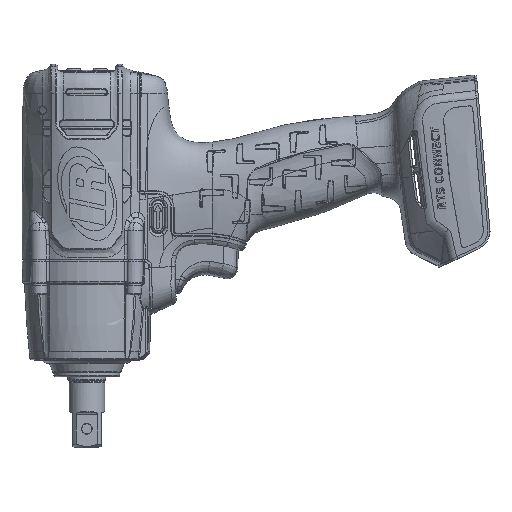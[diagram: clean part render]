
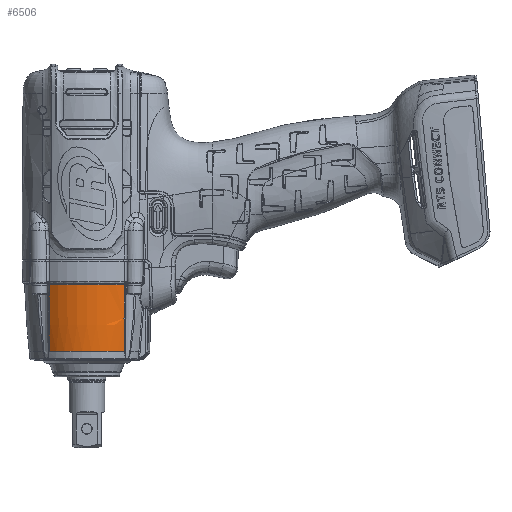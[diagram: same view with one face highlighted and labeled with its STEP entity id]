
A CAD part, left-side view. The second image highlights one B-rep face of the part: STEP entity #6506.
In plain terms, the highlighted face is a revolution surface.
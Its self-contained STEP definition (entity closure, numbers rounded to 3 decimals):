
#199=SURFACE_OF_REVOLUTION('',#216,#206);
#206=AXIS1_PLACEMENT('',#171136,#95292);
#216=(
BOUNDED_CURVE()
B_SPLINE_CURVE(2,(#171133,#171134,#171135),.UNSPECIFIED.,.F.,.F.)
B_SPLINE_CURVE_WITH_KNOTS((3,3),(0.,1.),.UNSPECIFIED.)
CURVE()
GEOMETRIC_REPRESENTATION_ITEM()
RATIONAL_B_SPLINE_CURVE((1.,1.,1.))
REPRESENTATION_ITEM('')
);
#6506=ADVANCED_FACE('',(#12868),#199,.T.);
#12868=FACE_OUTER_BOUND('',#18086,.T.);
#18086=EDGE_LOOP('',(#42344,#42345,#42346,#42347,#42348,#42349));
#24422=B_SPLINE_CURVE_WITH_KNOTS('',3,(#169660,#169661,#169662,#169663),
 .UNSPECIFIED.,.F.,.F.,(4,4),(0.,1.),.UNSPECIFIED.);
#24426=B_SPLINE_CURVE_WITH_KNOTS('',3,(#169732,#169733,#169734,#169735),
 .UNSPECIFIED.,.F.,.F.,(4,4),(0.,1.),.UNSPECIFIED.);
#24495=B_SPLINE_CURVE_WITH_KNOTS('',3,(#171091,#171092,#171093,#171094,#171095,
#171096,#171097,#171098),.UNSPECIFIED.,.F.,.F.,(4,2,2,4),(0.,0.5,0.75,1.),
 .UNSPECIFIED.);
#24496=B_SPLINE_CURVE_WITH_KNOTS('',3,(#171123,#171124,#171125,#171126,#171127,
#171128,#171129,#171130),.UNSPECIFIED.,.F.,.F.,(4,2,2,4),(0.,0.25,0.5,1.),
 .UNSPECIFIED.);
#42344=ORIENTED_EDGE('',*,*,#75792,.T.);
#42345=ORIENTED_EDGE('',*,*,#75675,.T.);
#42346=ORIENTED_EDGE('',*,*,#75668,.T.);
#42347=ORIENTED_EDGE('',*,*,#75667,.T.);
#42348=ORIENTED_EDGE('',*,*,#75791,.T.);
#42349=ORIENTED_EDGE('',*,*,#75793,.F.);
#66224=VERTEX_POINT('',#169562);
#66229=VERTEX_POINT('',#169659);
#66230=VERTEX_POINT('',#169677);
#66236=VERTEX_POINT('',#169736);
#66307=VERTEX_POINT('',#171090);
#66308=VERTEX_POINT('',#171131);
#75667=EDGE_CURVE('',#66224,#66229,#24422,.T.);
#75668=EDGE_CURVE('',#66230,#66224,#86779,.T.);
#75675=EDGE_CURVE('',#66236,#66230,#24426,.T.);
#75791=EDGE_CURVE('',#66229,#66307,#24495,.T.);
#75792=EDGE_CURVE('',#66308,#66236,#24496,.T.);
#75793=EDGE_CURVE('',#66308,#66307,#86830,.T.);
#86779=CIRCLE('',#89232,27.956);
#86830=CIRCLE('',#89296,25.935);
#89232=AXIS2_PLACEMENT_3D('',#169676,#95160,#95161);
#89296=AXIS2_PLACEMENT_3D('',#171132,#95290,#95291);
#95160=DIRECTION('',(0.,0.,-1.));
#95161=DIRECTION('',(0.,1.,0.));
#95290=DIRECTION('',(0.,0.,-1.));
#95291=DIRECTION('',(0.,1.,0.));
#95292=DIRECTION('',(0.,0.,-1.));
#169562=CARTESIAN_POINT('',(-22.256,16.917,-10.472));
#169659=CARTESIAN_POINT('',(-22.255,16.916,-10.51));
#169660=CARTESIAN_POINT('',(-22.256,16.917,-10.472));
#169661=CARTESIAN_POINT('',(-22.256,16.916,-10.485));
#169662=CARTESIAN_POINT('',(-22.256,16.916,-10.497));
#169663=CARTESIAN_POINT('',(-22.255,16.916,-10.51));
#169676=CARTESIAN_POINT('',(0.,0.,
-10.472));
#169677=CARTESIAN_POINT('',(-22.256,-16.917,-10.472));
#169732=CARTESIAN_POINT('',(-22.255,-16.916,-10.51));
#169733=CARTESIAN_POINT('',(-22.256,-16.916,-10.497));
#169734=CARTESIAN_POINT('',(-22.256,-16.916,-10.485));
#169735=CARTESIAN_POINT('',(-22.256,-16.917,-10.472));
#169736=CARTESIAN_POINT('',(-22.255,-16.916,-10.51));
#171090=CARTESIAN_POINT('',(-19.612,16.97,-40.482));
#171091=CARTESIAN_POINT('',(-22.255,16.916,-10.51));
#171092=CARTESIAN_POINT('',(-22.1,16.821,-15.529));
#171093=CARTESIAN_POINT('',(-21.858,16.725,-20.545));
#171094=CARTESIAN_POINT('',(-21.273,16.661,-28.054));
#171095=CARTESIAN_POINT('',(-21.042,16.654,-30.556));
#171096=CARTESIAN_POINT('',(-20.458,16.714,-35.541));
#171097=CARTESIAN_POINT('',(-20.12,16.765,-38.032));
#171098=CARTESIAN_POINT('',(-19.612,16.97,-40.482));
#171123=CARTESIAN_POINT('',(-19.612,-16.97,-40.482));
#171124=CARTESIAN_POINT('',(-20.12,-16.766,-38.035));
#171125=CARTESIAN_POINT('',(-20.458,-16.714,-35.54));
#171126=CARTESIAN_POINT('',(-21.042,-16.654,-30.556));
#171127=CARTESIAN_POINT('',(-21.273,-16.661,-28.055));
#171128=CARTESIAN_POINT('',(-21.858,-16.725,-20.545));
#171129=CARTESIAN_POINT('',(-22.1,-16.821,-15.529));
#171130=CARTESIAN_POINT('',(-22.255,-16.916,-10.51));
#171131=CARTESIAN_POINT('',(-19.612,-16.97,-40.482));
#171132=CARTESIAN_POINT('',(0.,0.,
-40.482));
#171133=CARTESIAN_POINT('',(0.,27.99,-9.506));
#171134=CARTESIAN_POINT('',(0.,27.432,-25.838));
#171135=CARTESIAN_POINT('',(0.,25.935,-40.482));
#171136=CARTESIAN_POINT('',(0.,0.,
-44.2));
